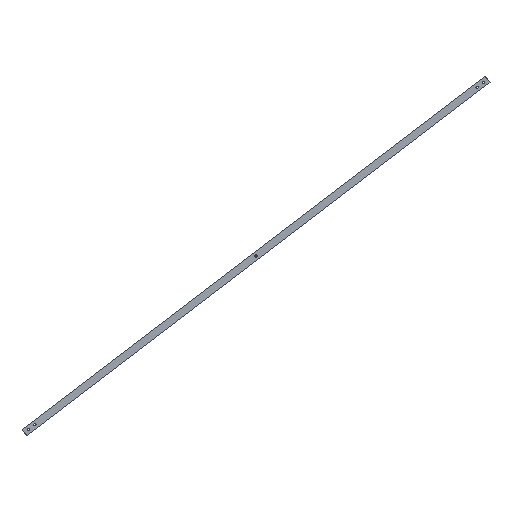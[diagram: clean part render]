
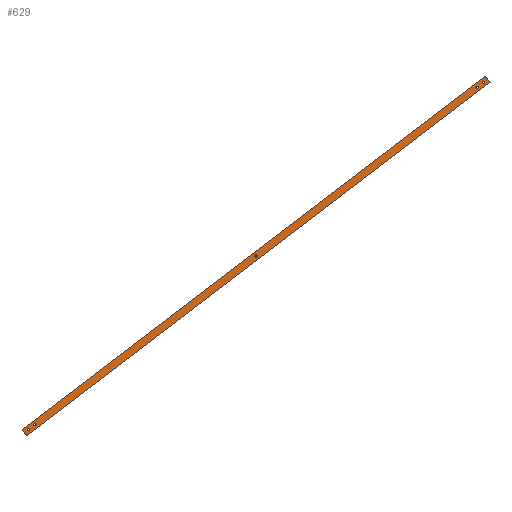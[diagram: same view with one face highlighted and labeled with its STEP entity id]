
A CAD part, front view. The second image highlights one B-rep face of the part: STEP entity #629.
In plain terms, the highlighted planar face has unit normal (0, -1, 0).
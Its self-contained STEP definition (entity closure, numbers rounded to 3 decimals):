
#2 = EDGE_LOOP ( 'NONE', ( #726, #546 ) ) ;
#5 = DIRECTION ( 'NONE',  ( 0., -1., 0. ) ) ;
#9 = DIRECTION ( 'NONE',  ( 0., 1., 0. ) ) ;
#10 = CIRCLE ( 'NONE', #739, 7. ) ;
#13 = CIRCLE ( 'NONE', #50, 7. ) ;
#26 = DIRECTION ( 'NONE',  ( 0.607, 0., -0.795 ) ) ;
#29 = VERTEX_POINT ( 'NONE', #684 ) ;
#31 = VERTEX_POINT ( 'NONE', #689 ) ;
#39 = DIRECTION ( 'NONE',  ( 0., -1., 0. ) ) ;
#50 = AXIS2_PLACEMENT_3D ( 'NONE', #64, #528, #348 ) ;
#54 = VERTEX_POINT ( 'NONE', #176 ) ;
#55 = EDGE_CURVE ( 'NONE', #385, #669, #238, .T. ) ;
#59 = DIRECTION ( 'NONE',  ( 0.607, 0., -0.795 ) ) ;
#61 = CARTESIAN_POINT ( 'NONE',  ( 2895.75, 5., 2241.874 ) ) ;
#64 = CARTESIAN_POINT ( 'NONE',  ( 1500., 5., 1145. ) ) ;
#74 = VERTEX_POINT ( 'NONE', #342 ) ;
#92 = VERTEX_POINT ( 'NONE', #636 ) ;
#95 = EDGE_LOOP ( 'NONE', ( #700, #303 ) ) ;
#98 = DIRECTION ( 'NONE',  ( 0., 0., 1. ) ) ;
#114 = DIRECTION ( 'NONE',  ( 0., 0., 1. ) ) ;
#119 = ORIENTED_EDGE ( 'NONE', *, *, #347, .F. ) ;
#123 = DIRECTION ( 'NONE',  ( 0., 0., -1. ) ) ;
#127 = DIRECTION ( 'NONE',  ( 0., -1., 0. ) ) ;
#131 = CARTESIAN_POINT ( 'NONE',  ( 2926.088, 5., 2202.129 ) ) ;
#134 = ORIENTED_EDGE ( 'NONE', *, *, #646, .T. ) ;
#143 = LINE ( 'NONE', #547, #620 ) ;
#146 = CARTESIAN_POINT ( 'NONE',  ( 152.672, 5., 123.539 ) ) ;
#154 = VERTEX_POINT ( 'NONE', #309 ) ;
#166 = DIRECTION ( 'NONE',  ( -0.795, 0., -0.607 ) ) ;
#176 = CARTESIAN_POINT ( 'NONE',  ( 2926.088, 5., 2202.129 ) ) ;
#177 = FACE_BOUND ( 'NONE', #552, .T. ) ;
#182 = VECTOR ( 'NONE', #541, 1000. ) ;
#186 = CARTESIAN_POINT ( 'NONE',  ( 2887.073, 5., 2196.799 ) ) ;
#194 = VECTOR ( 'NONE', #59, 1000. ) ;
#204 = CIRCLE ( 'NONE', #410, 7. ) ;
#205 = DIRECTION ( 'NONE',  ( 0., 0., 1. ) ) ;
#206 = ORIENTED_EDGE ( 'NONE', *, *, #638, .F. ) ;
#211 = DIRECTION ( 'NONE',  ( 0., 0., 1. ) ) ;
#227 = DIRECTION ( 'NONE',  ( 0., -1., 0. ) ) ;
#229 = AXIS2_PLACEMENT_3D ( 'NONE', #367, #299, #362 ) ;
#235 = FACE_BOUND ( 'NONE', #95, .T. ) ;
#238 = LINE ( 'NONE', #61, #379 ) ;
#254 = AXIS2_PLACEMENT_3D ( 'NONE', #288, #475, #539 ) ;
#273 = EDGE_CURVE ( 'NONE', #74, #667, #557, .T. ) ;
#275 = CARTESIAN_POINT ( 'NONE',  ( 2887.073, 5., 2203.799 ) ) ;
#278 = DIRECTION ( 'NONE',  ( 0., -1., 0. ) ) ;
#280 = ORIENTED_EDGE ( 'NONE', *, *, #55, .T. ) ;
#288 = CARTESIAN_POINT ( 'NONE',  ( 152.672, 5., 116.539 ) ) ;
#296 = ORIENTED_EDGE ( 'NONE', *, *, #455, .F. ) ;
#299 = DIRECTION ( 'NONE',  ( 0., -1., 0. ) ) ;
#301 = CIRCLE ( 'NONE', #254, 7. ) ;
#302 = AXIS2_PLACEMENT_3D ( 'NONE', #698, #127, #595 ) ;
#303 = ORIENTED_EDGE ( 'NONE', *, *, #407, .F. ) ;
#309 = CARTESIAN_POINT ( 'NONE',  ( 2847.328, 5., 2166.461 ) ) ;
#310 = VERTEX_POINT ( 'NONE', #339 ) ;
#329 = CARTESIAN_POINT ( 'NONE',  ( 2847.328, 5., 2173.461 ) ) ;
#330 = EDGE_CURVE ( 'NONE', #583, #154, #716, .T. ) ;
#332 = DIRECTION ( 'NONE',  ( 0., 0., -1. ) ) ;
#339 = CARTESIAN_POINT ( 'NONE',  ( 112.927, 5., 79.201 ) ) ;
#341 = AXIS2_PLACEMENT_3D ( 'NONE', #467, #9, #584 ) ;
#342 = CARTESIAN_POINT ( 'NONE',  ( 2887.073, 5., 2210.799 ) ) ;
#347 = EDGE_CURVE ( 'NONE', #154, #583, #728, .T. ) ;
#348 = DIRECTION ( 'NONE',  ( 0., 0., -1. ) ) ;
#356 = FACE_OUTER_BOUND ( 'NONE', #585, .T. ) ;
#361 = FACE_BOUND ( 'NONE', #586, .T. ) ;
#362 = DIRECTION ( 'NONE',  ( 0., 0., -1. ) ) ;
#366 = CARTESIAN_POINT ( 'NONE',  ( 73.912, 5., 87.871 ) ) ;
#367 = CARTESIAN_POINT ( 'NONE',  ( 112.927, 5., 86.201 ) ) ;
#369 = AXIS2_PLACEMENT_3D ( 'NONE', #275, #568, #98 ) ;
#379 = VECTOR ( 'NONE', #166, 1000. ) ;
#381 = AXIS2_PLACEMENT_3D ( 'NONE', #459, #503, #114 ) ;
#385 = VERTEX_POINT ( 'NONE', #468 ) ;
#389 = ORIENTED_EDGE ( 'NONE', *, *, #504, .F. ) ;
#391 = EDGE_CURVE ( 'NONE', #657, #310, #204, .T. ) ;
#393 = ORIENTED_EDGE ( 'NONE', *, *, #721, .F. ) ;
#406 = PLANE ( 'NONE',  #341 ) ;
#407 = EDGE_CURVE ( 'NONE', #732, #31, #686, .T. ) ;
#410 = AXIS2_PLACEMENT_3D ( 'NONE', #413, #5, #123 ) ;
#413 = CARTESIAN_POINT ( 'NONE',  ( 112.927, 5., 86.201 ) ) ;
#414 = EDGE_CURVE ( 'NONE', #310, #657, #498, .T. ) ;
#416 = FACE_BOUND ( 'NONE', #492, .T. ) ;
#423 = CIRCLE ( 'NONE', #369, 7. ) ;
#446 = AXIS2_PLACEMENT_3D ( 'NONE', #597, #39, #205 ) ;
#455 = EDGE_CURVE ( 'NONE', #54, #509, #653, .T. ) ;
#459 = CARTESIAN_POINT ( 'NONE',  ( 2847.328, 5., 2173.461 ) ) ;
#467 = CARTESIAN_POINT ( 'NONE',  ( 2895.75, 5., 2241.874 ) ) ;
#468 = CARTESIAN_POINT ( 'NONE',  ( 2895.75, 5., 2241.874 ) ) ;
#475 = DIRECTION ( 'NONE',  ( 0., -1., 0. ) ) ;
#483 = ORIENTED_EDGE ( 'NONE', *, *, #330, .F. ) ;
#492 = EDGE_LOOP ( 'NONE', ( #623, #681 ) ) ;
#498 = CIRCLE ( 'NONE', #229, 7. ) ;
#503 = DIRECTION ( 'NONE',  ( 0., -1., 0. ) ) ;
#504 = EDGE_CURVE ( 'NONE', #92, #29, #10, .T. ) ;
#509 = VERTEX_POINT ( 'NONE', #670 ) ;
#528 = DIRECTION ( 'NONE',  ( 0., -1., 0. ) ) ;
#532 = CARTESIAN_POINT ( 'NONE',  ( 112.927, 5., 93.201 ) ) ;
#539 = DIRECTION ( 'NONE',  ( 0., 0., -1. ) ) ;
#541 = DIRECTION ( 'NONE',  ( -0.795, 0., -0.607 ) ) ;
#546 = ORIENTED_EDGE ( 'NONE', *, *, #391, .F. ) ;
#547 = CARTESIAN_POINT ( 'NONE',  ( 2895.75, 5., 2241.874 ) ) ;
#552 = EDGE_LOOP ( 'NONE', ( #119, #483 ) ) ;
#557 = CIRCLE ( 'NONE', #446, 7. ) ;
#568 = DIRECTION ( 'NONE',  ( 0., -1., 0. ) ) ;
#574 = CARTESIAN_POINT ( 'NONE',  ( 73.912, 5., 87.871 ) ) ;
#580 = EDGE_CURVE ( 'NONE', #667, #74, #423, .T. ) ;
#583 = VERTEX_POINT ( 'NONE', #624 ) ;
#584 = DIRECTION ( 'NONE',  ( 0., 0., 1. ) ) ;
#585 = EDGE_LOOP ( 'NONE', ( #134, #296, #393, #280 ) ) ;
#586 = EDGE_LOOP ( 'NONE', ( #206, #389 ) ) ;
#595 = DIRECTION ( 'NONE',  ( 0., 0., -1. ) ) ;
#597 = CARTESIAN_POINT ( 'NONE',  ( 2887.073, 5., 2203.799 ) ) ;
#620 = VECTOR ( 'NONE', #26, 1000. ) ;
#621 = CARTESIAN_POINT ( 'NONE',  ( 1500., 5., 1145. ) ) ;
#623 = ORIENTED_EDGE ( 'NONE', *, *, #580, .F. ) ;
#624 = CARTESIAN_POINT ( 'NONE',  ( 2847.328, 5., 2180.461 ) ) ;
#629 = ADVANCED_FACE ( 'NONE', ( #691, #361, #177, #416, #235, #356 ), #406, .F. ) ;
#636 = CARTESIAN_POINT ( 'NONE',  ( 1500., 5., 1152. ) ) ;
#638 = EDGE_CURVE ( 'NONE', #29, #92, #13, .T. ) ;
#646 = EDGE_CURVE ( 'NONE', #669, #509, #695, .T. ) ;
#653 = LINE ( 'NONE', #131, #182 ) ;
#657 = VERTEX_POINT ( 'NONE', #532 ) ;
#666 = EDGE_CURVE ( 'NONE', #31, #732, #301, .T. ) ;
#667 = VERTEX_POINT ( 'NONE', #186 ) ;
#669 = VERTEX_POINT ( 'NONE', #366 ) ;
#670 = CARTESIAN_POINT ( 'NONE',  ( 104.25, 5., 48.126 ) ) ;
#681 = ORIENTED_EDGE ( 'NONE', *, *, #273, .F. ) ;
#684 = CARTESIAN_POINT ( 'NONE',  ( 1500., 5., 1138. ) ) ;
#686 = CIRCLE ( 'NONE', #302, 7. ) ;
#689 = CARTESIAN_POINT ( 'NONE',  ( 152.672, 5., 109.539 ) ) ;
#691 = FACE_BOUND ( 'NONE', #2, .T. ) ;
#695 = LINE ( 'NONE', #574, #194 ) ;
#698 = CARTESIAN_POINT ( 'NONE',  ( 152.672, 5., 116.539 ) ) ;
#700 = ORIENTED_EDGE ( 'NONE', *, *, #666, .F. ) ;
#716 = CIRCLE ( 'NONE', #381, 7. ) ;
#721 = EDGE_CURVE ( 'NONE', #385, #54, #143, .T. ) ;
#726 = ORIENTED_EDGE ( 'NONE', *, *, #414, .F. ) ;
#728 = CIRCLE ( 'NONE', #742, 7. ) ;
#732 = VERTEX_POINT ( 'NONE', #146 ) ;
#739 = AXIS2_PLACEMENT_3D ( 'NONE', #621, #227, #332 ) ;
#742 = AXIS2_PLACEMENT_3D ( 'NONE', #329, #278, #211 ) ;
